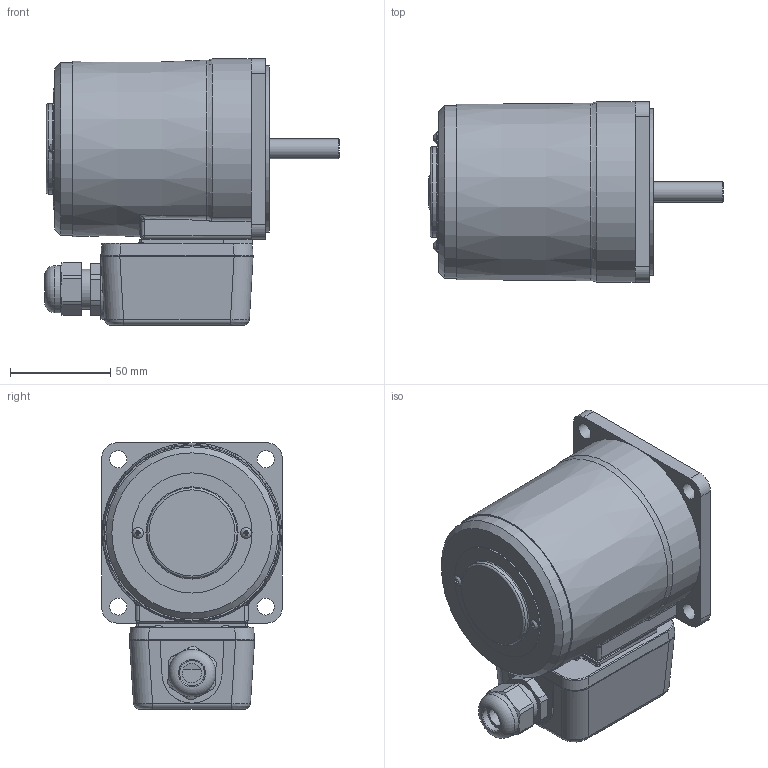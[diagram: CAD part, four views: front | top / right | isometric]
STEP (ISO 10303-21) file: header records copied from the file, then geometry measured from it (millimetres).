
FILE_DESCRIPTION(/* description */ (''),/* implementation_level */ '2;1');
FILE_NAME(/* name */ 'E:\도면작업\2016\0704) 미주향 SG 도면\3D MOTOR\TERMINAL BOX TYPE\REVERSIBLE TERMINAL BOX\SG9R40S_-T.stp',/* time_stamp */ '2017-01-24T11:32:48+09:00',/* author */ ('jy-jung'),/* organization */ (''),/* preprocessor_version */ 'ST-DEVELOPER v15.6',/* originating_system */ 'Autodesk Inventor 2015',/* authorisation */ '');
FILE_SCHEMA (('AUTOMOTIVE_DESIGN { 1 0 10303 214 3 1 1 }'));
Length unit declared in the file: millimetre
Products named in the file (1): 부품1
Bounding box: 147 x 90 x 133 mm (x, y, z)
Volume: 855631.6 mm3; surface area: 75152.4 mm2
Topology: 1 solids, 12 shells, 422 faces, 1043 edges, 664 vertices
Faces by surface type: plane 225, cylinder 114, bspline 52, torus 26, cone 5
Full cylindrical faces by diameter (mm): 2.55 x2, 3 x2, 3.5 x2, 5.6 x6, 6.3 x4, 8.5 x4, 10 x1, 12.5 x1, 15 x1, 20 x2, 21 x1, 23.6 x1, 40 x1, 43 x1, 45 x1, 60 x1, 83 x1, 86 x1
Entity records: 14350 total; most frequent: CARTESIAN_POINT 4506, ORIENTED_EDGE 1930, DIRECTION 1846, EDGE_CURVE 965, AXIS2_PLACEMENT_3D 664, VERTEX_POINT 649, LINE 518, VECTOR 518
